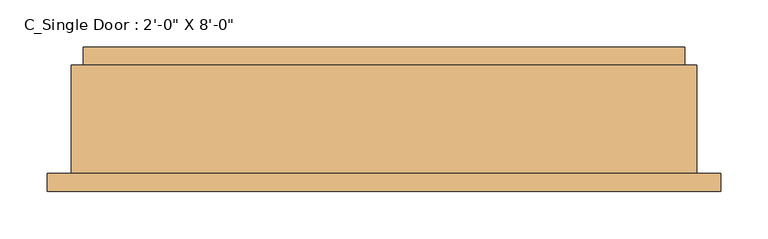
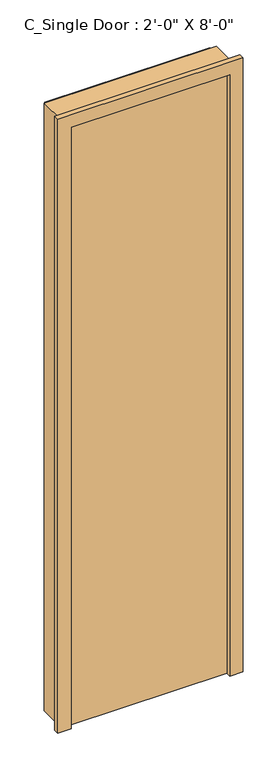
"""IFC4 building model written with IfcOpenShell, lengths in millimetres: door geometry."""

from ifc_helpers import new_model, si_unit, frame, origin, origin_with_axes, place, context, project, spatial, polyline, outline, extrude, source, transform, mapped, element, save


def door_ce178138(model_context):
    return source(origin(), model_context, "Body", "SweptSolid", [
        extrude(outline(polyline([(304.8, -57.15), (-304.8, -57.15), (-304.8, -6.35), (304.8, -6.35), (304.8, -57.15)])), origin_with_axes(), (0.0, 0.0, 1.0), 2438.4),
        extrude(outline(polyline([(2438.4, -304.8), (2438.4, 304.8), (0.0, 304.8), (0.0, 355.6), (2489.2, 355.6), (2489.2, -355.6), (0.0, -355.6), (0.0, -304.8), (2438.4, -304.8)])), frame((0.0, -76.2, 0.0), z_axis=(0.0, 1.0, 0.0), x_axis=(0.0, 0.0, 1.0)), (0.0, 0.0, 1.0), 19.05),
        extrude(outline(polyline([(2438.4, -304.8), (2438.4, 304.8), (0.0, 304.8), (0.0, 317.5), (2451.1, 317.5), (2451.1, -317.5), (0.0, -317.5), (0.0, -304.8), (2438.4, -304.8)])), frame((0.0, 57.15, 0.0), z_axis=(0.0, 1.0, 0.0), x_axis=(0.0, 0.0, 1.0)), (0.0, 0.0, 1.0), 19.05),
        extrude(outline(polyline([(0.0, -330.2), (0.0, -304.8), (2438.4, -304.8), (2438.4, 304.8), (0.0, 304.8), (0.0, 330.2), (2463.8, 330.2), (2463.8, -330.2), (0.0, -330.2)])), frame((0.0, -57.15, 0.0), z_axis=(0.0, 1.0, 0.0), x_axis=(0.0, 0.0, 1.0)), (0.0, 0.0, 1.0), 114.3),
    ])


if __name__ == "__main__":
    model = new_model("IFC4")
    model_context = context("Model", 3, world=origin())
    ifc_project = project(units=[si_unit("LENGTHUNIT", "METRE", prefix="MILLI")], contexts=[model_context])
    site = spatial("IfcSite", under=ifc_project)
    building = spatial("IfcBuilding", under=site)
    placement = place(None, origin())
    door_shape = door_ce178138(model_context)
    element("IfcDoor", 1, ObjectType="C_Single Door : 2'-0\" X 8'-0\"", at=placement, inside=building, context=model_context, shape_type="MappedRepresentation", body=[
        mapped(door_shape, transform((0.0, 0.0, 0.0), x_axis=(1.0, 0.0, 0.0), y_axis=(0.0, 1.0, 0.0), z_axis=(0.0, 0.0, 1.0))),
    ])
    save(model, "model.ifc")
